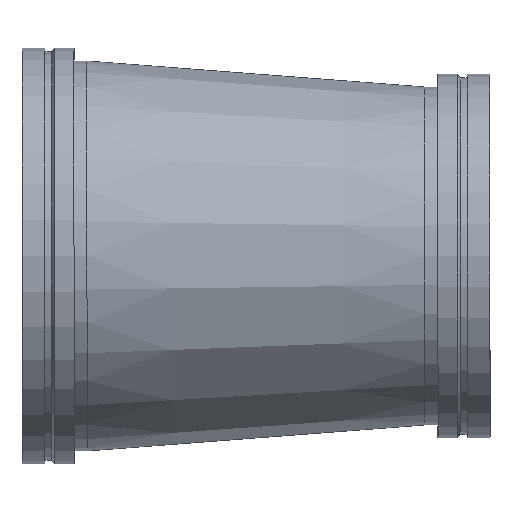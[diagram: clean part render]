
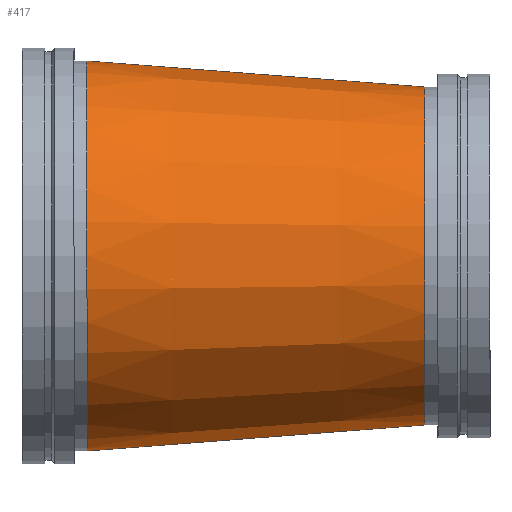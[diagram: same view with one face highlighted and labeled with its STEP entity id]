
A CAD part, top view. The second image highlights one B-rep face of the part: STEP entity #417.
In plain terms, the highlighted conical face has half-angle 4.399 degrees and reference radius 355.6 mm.
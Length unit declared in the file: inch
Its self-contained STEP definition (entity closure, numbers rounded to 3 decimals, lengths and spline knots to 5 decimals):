
#46=CONICAL_SURFACE('',#475,14.,0.077);
#54=LINE('',#739,#68);
#68=VECTOR('',#587,14.);
#101=FACE_OUTER_BOUND('',#124,.T.);
#124=EDGE_LOOP('',(#315,#316,#317,#318,#319,#320));
#155=CIRCLE('',#473,15.);
#156=CIRCLE('',#474,15.);
#157=CIRCLE('',#476,13.);
#158=CIRCLE('',#477,13.);
#195=VERTEX_POINT('',#729);
#196=VERTEX_POINT('',#730);
#197=VERTEX_POINT('',#735);
#198=VERTEX_POINT('',#736);
#239=EDGE_CURVE('',#195,#196,#155,.T.);
#240=EDGE_CURVE('',#196,#195,#156,.T.);
#242=EDGE_CURVE('',#197,#198,#157,.T.);
#243=EDGE_CURVE('',#198,#197,#158,.T.);
#244=EDGE_CURVE('',#198,#196,#54,.T.);
#315=ORIENTED_EDGE('',*,*,#242,.F.);
#316=ORIENTED_EDGE('',*,*,#243,.F.);
#317=ORIENTED_EDGE('',*,*,#244,.T.);
#318=ORIENTED_EDGE('',*,*,#240,.T.);
#319=ORIENTED_EDGE('',*,*,#239,.T.);
#320=ORIENTED_EDGE('',*,*,#244,.F.);
#417=ADVANCED_FACE('',(#101),#46,.T.);
#473=AXIS2_PLACEMENT_3D('',#731,#576,#577);
#474=AXIS2_PLACEMENT_3D('',#732,#578,#579);
#475=AXIS2_PLACEMENT_3D('',#734,#581,#582);
#476=AXIS2_PLACEMENT_3D('',#737,#583,#584);
#477=AXIS2_PLACEMENT_3D('',#738,#585,#586);
#576=DIRECTION('center_axis',(1.,0.,0.));
#577=DIRECTION('ref_axis',(0.,0.,-1.));
#578=DIRECTION('center_axis',(1.,0.,0.));
#579=DIRECTION('ref_axis',(0.,0.,-1.));
#581=DIRECTION('center_axis',(-1.,0.,0.));
#582=DIRECTION('ref_axis',(0.,1.,0.));
#583=DIRECTION('center_axis',(1.,0.,0.));
#584=DIRECTION('ref_axis',(0.,0.,-1.));
#585=DIRECTION('center_axis',(1.,0.,0.));
#586=DIRECTION('ref_axis',(0.,0.,-1.));
#587=DIRECTION('',(-0.997,-0.077,0.));
#729=CARTESIAN_POINT('',(5.,15.,0.));
#730=CARTESIAN_POINT('',(5.,-15.,0.));
#731=CARTESIAN_POINT('Origin',(5.,0.,0.));
#732=CARTESIAN_POINT('Origin',(5.,0.,0.));
#734=CARTESIAN_POINT('Origin',(18.,0.,0.));
#735=CARTESIAN_POINT('',(31.,13.,0.));
#736=CARTESIAN_POINT('',(31.,-13.,0.));
#737=CARTESIAN_POINT('Origin',(31.,0.,0.));
#738=CARTESIAN_POINT('Origin',(31.,0.,0.));
#739=CARTESIAN_POINT('',(18.,-14.,0.));
